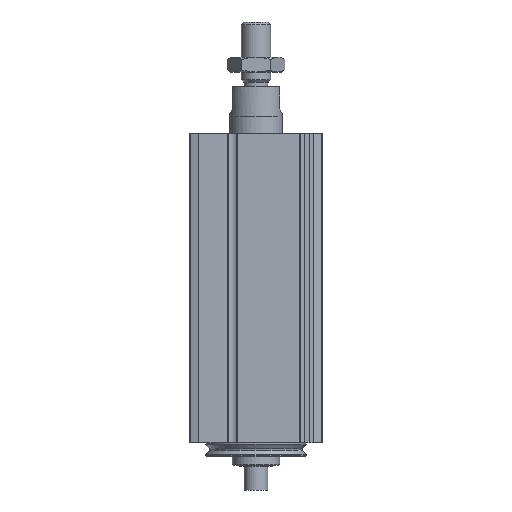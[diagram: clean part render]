
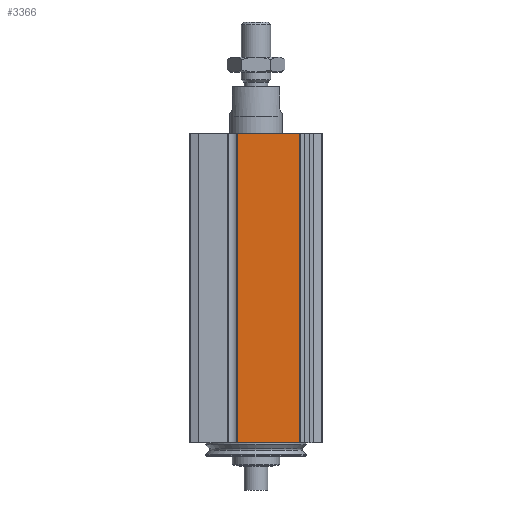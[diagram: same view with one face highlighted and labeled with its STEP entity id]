
A CAD part, left-side view. The second image highlights one B-rep face of the part: STEP entity #3366.
In plain terms, the highlighted planar face has unit normal (-1, 0, 0) as drawn and (0, 0, 1) by its records, which use the part's own axes.
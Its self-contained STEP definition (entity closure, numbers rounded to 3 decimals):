
#97=LINE('',#5547,#339);
#113=LINE('',#5593,#355);
#114=LINE('',#5597,#356);
#115=LINE('',#5599,#357);
#339=VECTOR('',#4304,1000.);
#355=VECTOR('',#4350,1000.);
#356=VECTOR('',#4355,1000.);
#357=VECTOR('',#4356,1000.);
#638=PLANE('',#3707);
#1197=ORIENTED_EDGE('',*,*,#2058,.T.);
#1198=ORIENTED_EDGE('',*,*,#2083,.F.);
#1199=ORIENTED_EDGE('',*,*,#2084,.F.);
#1200=ORIENTED_EDGE('',*,*,#2081,.T.);
#2058=EDGE_CURVE('',#2522,#2521,#97,.T.);
#2081=EDGE_CURVE('',#2537,#2522,#113,.T.);
#2083=EDGE_CURVE('',#2538,#2521,#114,.T.);
#2084=EDGE_CURVE('',#2537,#2538,#115,.T.);
#2521=VERTEX_POINT('',#5546);
#2522=VERTEX_POINT('',#5548);
#2537=VERTEX_POINT('',#5594);
#2538=VERTEX_POINT('',#5598);
#2816=EDGE_LOOP('',(#1197,#1198,#1199,#1200));
#3090=FACE_BOUND('',#2816,.T.);
#3366=ADVANCED_FACE('',(#3090),#638,.F.);
#3707=AXIS2_PLACEMENT_3D('',#5596,#4353,#4354);
#4304=DIRECTION('',(0.,-1.,0.));
#4350=DIRECTION('',(-1.,0.,0.));
#4353=DIRECTION('',(0.,0.,-1.));
#4354=DIRECTION('',(-1.,0.,0.));
#4355=DIRECTION('',(-1.,0.,0.));
#4356=DIRECTION('',(0.,-1.,0.));
#5546=CARTESIAN_POINT('',(0.,-6.3,22.5));
#5547=CARTESIAN_POINT('',(0.,14.82,22.5));
#5548=CARTESIAN_POINT('',(0.,14.82,22.5));
#5593=CARTESIAN_POINT('',(105.,14.82,22.5));
#5594=CARTESIAN_POINT('',(105.,14.82,22.5));
#5596=CARTESIAN_POINT('',(105.,14.82,22.5));
#5597=CARTESIAN_POINT('',(105.,-6.3,22.5));
#5598=CARTESIAN_POINT('',(105.,-6.3,22.5));
#5599=CARTESIAN_POINT('',(105.,14.82,22.5));
